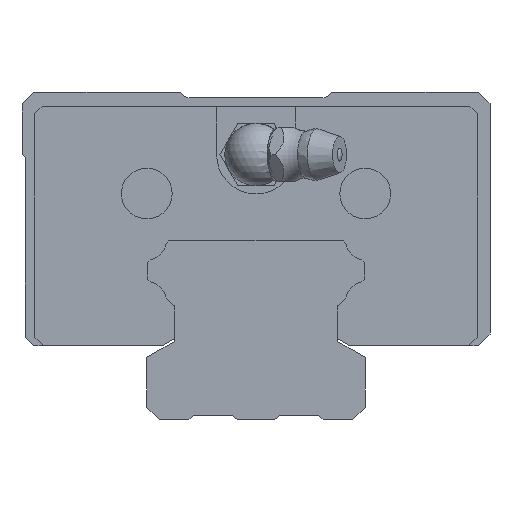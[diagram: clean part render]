
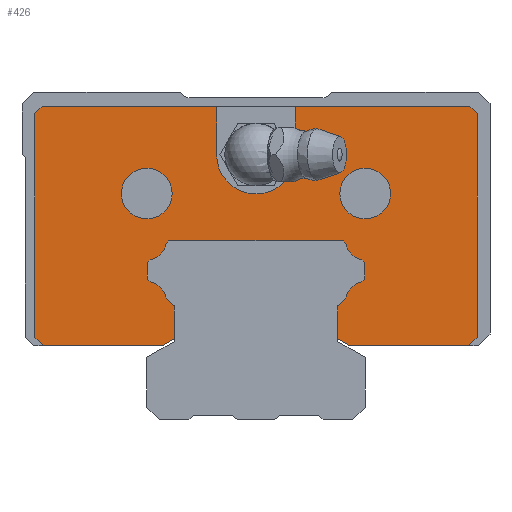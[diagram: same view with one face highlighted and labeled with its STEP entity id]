
A CAD part, front view. The second image highlights one B-rep face of the part: STEP entity #426.
In plain terms, the highlighted planar face has unit normal (0, -1, 0).
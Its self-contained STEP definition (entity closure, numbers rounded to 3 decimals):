
#195=FACE_BOUND('',#892,.T.);
#196=FACE_BOUND('',#893,.T.);
#263=CIRCLE('',#3285,2.6);
#265=CIRCLE('',#3291,2.6);
#267=CIRCLE('',#3297,2.6);
#269=CIRCLE('',#3303,2.6);
#274=CIRCLE('',#3325,3.25);
#275=CIRCLE('',#3326,3.25);
#276=CIRCLE('',#3327,5.05);
#426=ADVANCED_FACE('',(#195,#196,#712),#573,.T.);
#573=PLANE('',#3328);
#712=FACE_OUTER_BOUND('',#894,.T.);
#892=EDGE_LOOP('',(#1506));
#893=EDGE_LOOP('',(#1507));
#894=EDGE_LOOP('',(#1508,#1509,#1510,#1511,#1512,#1513,#1514,#1515,#1516,
#1517,#1518,#1519,#1520,#1521,#1522,#1523,#1524,#1525,#1526,#1527,#1528,
#1529,#1530,#1531,#1532,#1533,#1534,#1535,#1536,#1537,#1538,#1539));
#1506=ORIENTED_EDGE('',*,*,#2419,.T.);
#1507=ORIENTED_EDGE('',*,*,#2420,.T.);
#1508=ORIENTED_EDGE('',*,*,#2414,.F.);
#1509=ORIENTED_EDGE('',*,*,#2421,.F.);
#1510=ORIENTED_EDGE('',*,*,#2422,.F.);
#1511=ORIENTED_EDGE('',*,*,#2423,.T.);
#1512=ORIENTED_EDGE('',*,*,#2417,.F.);
#1513=ORIENTED_EDGE('',*,*,#2424,.F.);
#1514=ORIENTED_EDGE('',*,*,#2425,.F.);
#1515=ORIENTED_EDGE('',*,*,#2426,.T.);
#1516=ORIENTED_EDGE('',*,*,#2401,.T.);
#1517=ORIENTED_EDGE('',*,*,#2395,.T.);
#1518=ORIENTED_EDGE('',*,*,#2392,.F.);
#1519=ORIENTED_EDGE('',*,*,#2389,.F.);
#1520=ORIENTED_EDGE('',*,*,#2386,.T.);
#1521=ORIENTED_EDGE('',*,*,#2383,.F.);
#1522=ORIENTED_EDGE('',*,*,#2380,.T.);
#1523=ORIENTED_EDGE('',*,*,#2377,.T.);
#1524=ORIENTED_EDGE('',*,*,#2374,.T.);
#1525=ORIENTED_EDGE('',*,*,#2371,.T.);
#1526=ORIENTED_EDGE('',*,*,#2368,.T.);
#1527=ORIENTED_EDGE('',*,*,#2365,.F.);
#1528=ORIENTED_EDGE('',*,*,#2362,.T.);
#1529=ORIENTED_EDGE('',*,*,#2359,.F.);
#1530=ORIENTED_EDGE('',*,*,#2356,.F.);
#1531=ORIENTED_EDGE('',*,*,#2353,.T.);
#1532=ORIENTED_EDGE('',*,*,#2350,.T.);
#1533=ORIENTED_EDGE('',*,*,#2347,.T.);
#1534=ORIENTED_EDGE('',*,*,#2344,.T.);
#1535=ORIENTED_EDGE('',*,*,#2341,.F.);
#1536=ORIENTED_EDGE('',*,*,#2337,.T.);
#1537=ORIENTED_EDGE('',*,*,#2427,.F.);
#1538=ORIENTED_EDGE('',*,*,#2428,.T.);
#1539=ORIENTED_EDGE('',*,*,#2429,.T.);
#1985=VERTEX_POINT('',#4716);
#1986=VERTEX_POINT('',#4718);
#1989=VERTEX_POINT('',#4726);
#1991=VERTEX_POINT('',#4732);
#1993=VERTEX_POINT('',#4738);
#1995=VERTEX_POINT('',#4744);
#1997=VERTEX_POINT('',#4750);
#1999=VERTEX_POINT('',#4756);
#2001=VERTEX_POINT('',#4762);
#2003=VERTEX_POINT('',#4768);
#2005=VERTEX_POINT('',#4774);
#2007=VERTEX_POINT('',#4780);
#2009=VERTEX_POINT('',#4786);
#2011=VERTEX_POINT('',#4792);
#2013=VERTEX_POINT('',#4798);
#2015=VERTEX_POINT('',#4804);
#2017=VERTEX_POINT('',#4810);
#2019=VERTEX_POINT('',#4816);
#2021=VERTEX_POINT('',#4822);
#2023=VERTEX_POINT('',#4828);
#2025=VERTEX_POINT('',#4834);
#2028=VERTEX_POINT('',#4844);
#2036=VERTEX_POINT('',#4876);
#2037=VERTEX_POINT('',#4878);
#2038=VERTEX_POINT('',#4881);
#2039=VERTEX_POINT('',#4883);
#2040=VERTEX_POINT('',#4887);
#2041=VERTEX_POINT('',#4889);
#2042=VERTEX_POINT('',#4891);
#2043=VERTEX_POINT('',#4893);
#2044=VERTEX_POINT('',#4896);
#2045=VERTEX_POINT('',#4898);
#2046=VERTEX_POINT('',#4901);
#2047=VERTEX_POINT('',#4903);
#2337=EDGE_CURVE('',#1986,#1985,#2705,.T.);
#2341=EDGE_CURVE('',#1986,#1989,#2709,.T.);
#2344=EDGE_CURVE('',#1991,#1989,#2712,.T.);
#2347=EDGE_CURVE('',#1993,#1991,#2715,.T.);
#2350=EDGE_CURVE('',#1995,#1993,#263,.T.);
#2353=EDGE_CURVE('',#1997,#1995,#2719,.T.);
#2356=EDGE_CURVE('',#1997,#1999,#2722,.T.);
#2359=EDGE_CURVE('',#1999,#2001,#2725,.T.);
#2362=EDGE_CURVE('',#2003,#2001,#265,.T.);
#2365=EDGE_CURVE('',#2003,#2005,#2729,.T.);
#2368=EDGE_CURVE('',#2007,#2005,#2732,.T.);
#2371=EDGE_CURVE('',#2009,#2007,#2735,.T.);
#2374=EDGE_CURVE('',#2011,#2009,#267,.T.);
#2377=EDGE_CURVE('',#2013,#2011,#2739,.T.);
#2380=EDGE_CURVE('',#2015,#2013,#2742,.T.);
#2383=EDGE_CURVE('',#2015,#2017,#2745,.T.);
#2386=EDGE_CURVE('',#2019,#2017,#269,.T.);
#2389=EDGE_CURVE('',#2019,#2021,#2749,.T.);
#2392=EDGE_CURVE('',#2021,#2023,#2752,.T.);
#2395=EDGE_CURVE('',#2025,#2023,#2755,.T.);
#2401=EDGE_CURVE('',#2028,#2025,#2761,.T.);
#2414=EDGE_CURVE('',#2036,#2037,#2771,.T.);
#2417=EDGE_CURVE('',#2038,#2039,#2774,.T.);
#2419=EDGE_CURVE('',#2040,#2040,#274,.T.);
#2420=EDGE_CURVE('',#2041,#2041,#275,.T.);
#2421=EDGE_CURVE('',#2042,#2036,#2776,.T.);
#2422=EDGE_CURVE('',#2043,#2042,#276,.T.);
#2423=EDGE_CURVE('',#2043,#2039,#2777,.T.);
#2424=EDGE_CURVE('',#2044,#2038,#2778,.T.);
#2425=EDGE_CURVE('',#2045,#2044,#2779,.T.);
#2426=EDGE_CURVE('',#2045,#2028,#2780,.T.);
#2427=EDGE_CURVE('',#2046,#1985,#2781,.T.);
#2428=EDGE_CURVE('',#2046,#2047,#2782,.T.);
#2429=EDGE_CURVE('',#2047,#2037,#2783,.T.);
#2705=LINE('',#4717,#3009);
#2709=LINE('',#4725,#3013);
#2712=LINE('',#4731,#3016);
#2715=LINE('',#4737,#3019);
#2719=LINE('',#4749,#3023);
#2722=LINE('',#4755,#3026);
#2725=LINE('',#4761,#3029);
#2729=LINE('',#4773,#3033);
#2732=LINE('',#4779,#3036);
#2735=LINE('',#4785,#3039);
#2739=LINE('',#4797,#3043);
#2742=LINE('',#4803,#3046);
#2745=LINE('',#4809,#3049);
#2749=LINE('',#4821,#3053);
#2752=LINE('',#4827,#3056);
#2755=LINE('',#4833,#3059);
#2761=LINE('',#4843,#3065);
#2771=LINE('',#4877,#3075);
#2774=LINE('',#4882,#3078);
#2776=LINE('',#4890,#3080);
#2777=LINE('',#4894,#3081);
#2778=LINE('',#4895,#3082);
#2779=LINE('',#4897,#3083);
#2780=LINE('',#4899,#3084);
#2781=LINE('',#4900,#3085);
#2782=LINE('',#4902,#3086);
#2783=LINE('',#4904,#3087);
#3009=VECTOR('',#3837,1.);
#3013=VECTOR('',#3843,1.);
#3016=VECTOR('',#3848,1.);
#3019=VECTOR('',#3853,1.);
#3023=VECTOR('',#3865,1.);
#3026=VECTOR('',#3870,1.);
#3029=VECTOR('',#3875,1.);
#3033=VECTOR('',#3887,1.);
#3036=VECTOR('',#3892,1.);
#3039=VECTOR('',#3897,1.);
#3043=VECTOR('',#3909,1.);
#3046=VECTOR('',#3914,1.);
#3049=VECTOR('',#3919,1.);
#3053=VECTOR('',#3931,1.);
#3056=VECTOR('',#3936,1.);
#3059=VECTOR('',#3941,1.);
#3065=VECTOR('',#3949,1.);
#3075=VECTOR('',#3989,1.);
#3078=VECTOR('',#3992,1.);
#3080=VECTOR('',#4000,1.);
#3081=VECTOR('',#4003,1.);
#3082=VECTOR('',#4004,1.);
#3083=VECTOR('',#4005,1.);
#3084=VECTOR('',#4006,1.);
#3085=VECTOR('',#4007,1.);
#3086=VECTOR('',#4008,1.);
#3087=VECTOR('',#4009,1.);
#3285=AXIS2_PLACEMENT_3D('',#4743,#3858,#3859);
#3291=AXIS2_PLACEMENT_3D('',#4767,#3880,#3881);
#3297=AXIS2_PLACEMENT_3D('',#4791,#3902,#3903);
#3303=AXIS2_PLACEMENT_3D('',#4815,#3924,#3925);
#3325=AXIS2_PLACEMENT_3D('',#4886,#3996,#3997);
#3326=AXIS2_PLACEMENT_3D('',#4888,#3998,#3999);
#3327=AXIS2_PLACEMENT_3D('',#4892,#4001,#4002);
#3328=AXIS2_PLACEMENT_3D('',#4905,#4010,#4011);
#3837=DIRECTION('',(1.,0.,0.));
#3843=DIRECTION('',(-0.866,0.,0.5));
#3848=DIRECTION('',(0.,0.,-1.));
#3853=DIRECTION('',(-0.707,0.,-0.707));
#3858=DIRECTION('',(0.,-1.,0.));
#3859=DIRECTION('',(1.,0.,0.));
#3865=DIRECTION('',(-0.707,0.,-0.707));
#3870=DIRECTION('',(0.,0.,1.));
#3875=DIRECTION('',(-0.707,0.,0.707));
#3880=DIRECTION('',(0.,-1.,0.));
#3881=DIRECTION('',(1.,0.,0.));
#3887=DIRECTION('',(-0.707,0.,0.707));
#3892=DIRECTION('',(1.,0.,0.));
#3897=DIRECTION('',(0.707,0.,0.707));
#3902=DIRECTION('',(0.,-1.,0.));
#3903=DIRECTION('',(1.,0.,0.));
#3909=DIRECTION('',(0.707,0.,0.707));
#3914=DIRECTION('',(0.,0.,1.));
#3919=DIRECTION('',(0.707,0.,-0.707));
#3924=DIRECTION('',(0.,-1.,0.));
#3925=DIRECTION('',(1.,0.,0.));
#3931=DIRECTION('',(0.707,0.,-0.707));
#3936=DIRECTION('',(0.,0.,-1.));
#3941=DIRECTION('',(0.866,0.,0.5));
#3949=DIRECTION('',(1.,0.,0.));
#3989=DIRECTION('',(1.,0.,0.));
#3992=DIRECTION('',(1.,0.,0.));
#3996=DIRECTION('',(0.,1.,0.));
#3997=DIRECTION('',(0.,0.,1.));
#3998=DIRECTION('',(0.,1.,0.));
#3999=DIRECTION('',(0.,0.,1.));
#4000=DIRECTION('',(0.,0.,1.));
#4001=DIRECTION('',(0.,-1.,0.));
#4002=DIRECTION('',(1.,0.,0.));
#4003=DIRECTION('',(0.,0.,1.));
#4004=DIRECTION('',(0.707,0.,0.707));
#4005=DIRECTION('',(0.,0.,1.));
#4006=DIRECTION('',(0.707,0.,-0.707));
#4007=DIRECTION('',(-0.707,0.,-0.707));
#4008=DIRECTION('',(0.,0.,1.));
#4009=DIRECTION('',(-0.707,0.,0.707));
#4010=DIRECTION('',(0.,-1.,0.));
#4011=DIRECTION('',(0.,0.,-1.));
#4716=CARTESIAN_POINT('',(27.274,-34.,9.5));
#4717=CARTESIAN_POINT('',(12.002,-34.,9.5));
#4718=CARTESIAN_POINT('',(12.002,-34.,9.5));
#4725=CARTESIAN_POINT('',(12.002,-34.,9.5));
#4726=CARTESIAN_POINT('',(10.43,-34.,10.408));
#4731=CARTESIAN_POINT('',(10.43,-34.,14.531));
#4732=CARTESIAN_POINT('',(10.43,-34.,14.531));
#4737=CARTESIAN_POINT('',(11.512,-34.,15.612));
#4738=CARTESIAN_POINT('',(11.512,-34.,15.612));
#4743=CARTESIAN_POINT('',(14.067,-34.,15.133));
#4744=CARTESIAN_POINT('',(13.588,-34.,17.688));
#4749=CARTESIAN_POINT('',(13.93,-34.,18.031));
#4750=CARTESIAN_POINT('',(13.93,-34.,18.031));
#4755=CARTESIAN_POINT('',(13.93,-34.,18.031));
#4756=CARTESIAN_POINT('',(13.93,-34.,20.169));
#4761=CARTESIAN_POINT('',(13.93,-34.,20.169));
#4762=CARTESIAN_POINT('',(13.588,-34.,20.512));
#4767=CARTESIAN_POINT('',(14.067,-34.,23.067));
#4768=CARTESIAN_POINT('',(11.512,-34.,22.588));
#4773=CARTESIAN_POINT('',(11.512,-34.,22.588));
#4774=CARTESIAN_POINT('',(11.169,-34.,22.93));
#4779=CARTESIAN_POINT('',(-11.169,-34.,22.93));
#4780=CARTESIAN_POINT('',(-11.169,-34.,22.93));
#4785=CARTESIAN_POINT('',(-11.512,-34.,22.588));
#4786=CARTESIAN_POINT('',(-11.512,-34.,22.588));
#4791=CARTESIAN_POINT('',(-14.067,-34.,23.067));
#4792=CARTESIAN_POINT('',(-13.588,-34.,20.512));
#4797=CARTESIAN_POINT('',(-13.93,-34.,20.169));
#4798=CARTESIAN_POINT('',(-13.93,-34.,20.169));
#4803=CARTESIAN_POINT('',(-13.93,-34.,18.031));
#4804=CARTESIAN_POINT('',(-13.93,-34.,18.031));
#4809=CARTESIAN_POINT('',(-13.93,-34.,18.031));
#4810=CARTESIAN_POINT('',(-13.588,-34.,17.688));
#4815=CARTESIAN_POINT('',(-14.067,-34.,15.133));
#4816=CARTESIAN_POINT('',(-11.512,-34.,15.612));
#4821=CARTESIAN_POINT('',(-11.512,-34.,15.612));
#4822=CARTESIAN_POINT('',(-10.43,-34.,14.531));
#4827=CARTESIAN_POINT('',(-10.43,-34.,14.531));
#4828=CARTESIAN_POINT('',(-10.43,-34.,10.408));
#4833=CARTESIAN_POINT('',(-12.002,-34.,9.5));
#4834=CARTESIAN_POINT('',(-12.002,-34.,9.5));
#4843=CARTESIAN_POINT('',(-27.274,-34.,9.5));
#4844=CARTESIAN_POINT('',(-27.274,-34.,9.5));
#4876=CARTESIAN_POINT('',(5.05,-34.,40.14));
#4877=CARTESIAN_POINT('',(-27.434,-34.,40.14));
#4878=CARTESIAN_POINT('',(27.434,-34.,40.14));
#4881=CARTESIAN_POINT('',(-27.434,-34.,40.14));
#4882=CARTESIAN_POINT('',(-27.434,-34.,40.14));
#4883=CARTESIAN_POINT('',(-5.05,-34.,40.14));
#4886=CARTESIAN_POINT('',(14.,-34.,29.));
#4887=CARTESIAN_POINT('',(14.,-34.,32.25));
#4888=CARTESIAN_POINT('',(-14.,-34.,29.));
#4889=CARTESIAN_POINT('',(-14.,-34.,32.25));
#4890=CARTESIAN_POINT('',(5.05,-34.,34.));
#4891=CARTESIAN_POINT('',(5.05,-34.,34.));
#4892=CARTESIAN_POINT('',(0.,-34.,34.));
#4893=CARTESIAN_POINT('',(-5.05,-34.,34.));
#4894=CARTESIAN_POINT('',(-5.05,-34.,34.));
#4895=CARTESIAN_POINT('',(-28.34,-34.,39.234));
#4896=CARTESIAN_POINT('',(-28.34,-34.,39.234));
#4897=CARTESIAN_POINT('',(-28.34,-34.,10.566));
#4898=CARTESIAN_POINT('',(-28.34,-34.,10.566));
#4899=CARTESIAN_POINT('',(-28.34,-34.,10.566));
#4900=CARTESIAN_POINT('',(28.34,-34.,10.566));
#4901=CARTESIAN_POINT('',(28.34,-34.,10.566));
#4902=CARTESIAN_POINT('',(28.34,-34.,10.566));
#4903=CARTESIAN_POINT('',(28.34,-34.,39.234));
#4904=CARTESIAN_POINT('',(28.34,-34.,39.234));
#4905=CARTESIAN_POINT('',(-14.067,-34.,15.133));
